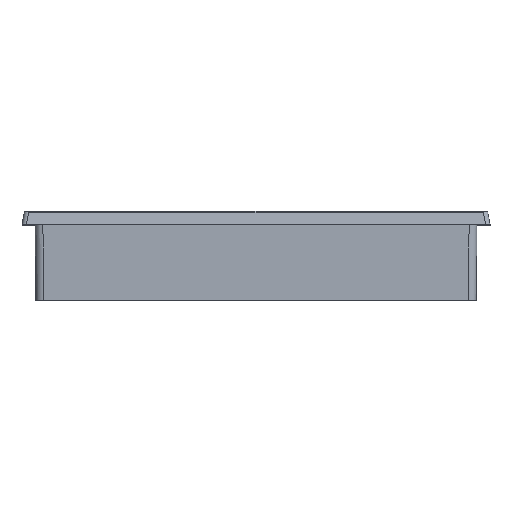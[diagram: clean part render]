
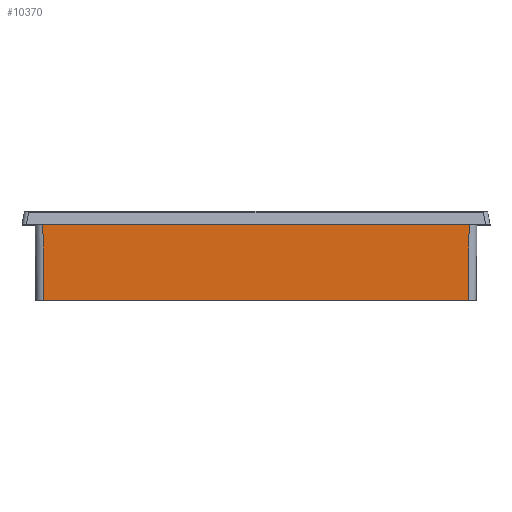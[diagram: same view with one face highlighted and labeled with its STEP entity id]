
A CAD part, top view. The second image highlights one B-rep face of the part: STEP entity #10370.
In plain terms, the highlighted planar face has unit normal (0, -0.009, 1).
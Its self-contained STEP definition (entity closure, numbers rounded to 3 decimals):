
#332 = CARTESIAN_POINT ( 'NONE',  ( -95.182, -34., 68.681 ) ) ;
#1544 = CARTESIAN_POINT ( 'NONE',  ( -95.397, -9.333, 68.897 ) ) ;
#3423 = DIRECTION ( 'NONE',  ( -1., 0., 0. ) ) ;
#3639 = FACE_OUTER_BOUND ( 'NONE', #7389, .T. ) ;
#4467 = B_SPLINE_CURVE_WITH_KNOTS ( 'NONE', 3,
 ( #19981, #14848, #5314, #18262 ),
 .UNSPECIFIED., .F., .F.,
 ( 4, 4 ),
 ( 0., 1. ),
 .UNSPECIFIED. ) ;
#4530 = CARTESIAN_POINT ( 'NONE',  ( -95.182, -34., 68.681 ) ) ;
#4572 = CARTESIAN_POINT ( 'NONE',  ( 31.835, 3., 69.004 ) ) ;
#5008 = ORIENTED_EDGE ( 'NONE', *, *, #19066, .T. ) ;
#5314 = CARTESIAN_POINT ( 'NONE',  ( 95.397, -9.333, 68.897 ) ) ;
#6685 = DIRECTION ( 'NONE',  ( 0., -0.009, 1. ) ) ;
#6821 = ORIENTED_EDGE ( 'NONE', *, *, #17737, .T. ) ;
#7389 = EDGE_LOOP ( 'NONE', ( #5008, #6821, #17707, #21225 ) ) ;
#8008 = CARTESIAN_POINT ( 'NONE',  ( 95.504, 3., 69.004 ) ) ;
#8303 = CARTESIAN_POINT ( 'NONE',  ( -95.182, -34., 68.681 ) ) ;
#9290 = CARTESIAN_POINT ( 'NONE',  ( -95.504, 3., 69.004 ) ) ;
#9471 = CARTESIAN_POINT ( 'NONE',  ( 95.182, -34., 68.681 ) ) ;
#9544 = EDGE_CURVE ( 'NONE', #13063, #17935, #16587, .T. ) ;
#10018 = CARTESIAN_POINT ( 'NONE',  ( -95.504, 3., 69.004 ) ) ;
#10110 = CARTESIAN_POINT ( 'NONE',  ( -105.055, 4.85, 69.021 ) ) ;
#10130 = CARTESIAN_POINT ( 'NONE',  ( -95.289, -21.667, 68.789 ) ) ;
#10249 = AXIS2_PLACEMENT_3D ( 'NONE', #10110, #6685, #3423 ) ;
#10370 = ADVANCED_FACE ( 'NONE', ( #3639 ), #11625, .T. ) ;
#11625 = PLANE ( 'NONE',  #10249 ) ;
#13063 = VERTEX_POINT ( 'NONE', #332 ) ;
#14212 = CARTESIAN_POINT ( 'NONE',  ( -31.835, 3., 69.004 ) ) ;
#14848 = CARTESIAN_POINT ( 'NONE',  ( 95.289, -21.667, 68.789 ) ) ;
#16054 = VERTEX_POINT ( 'NONE', #17234 ) ;
#16587 = B_SPLINE_CURVE_WITH_KNOTS ( 'NONE', 3,
 ( #4530, #17618, #20917, #9471 ),
 .UNSPECIFIED., .F., .F.,
 ( 4, 4 ),
 ( 0., 1. ),
 .UNSPECIFIED. ) ;
#16993 = EDGE_CURVE ( 'NONE', #17935, #17389, #4467, .T. ) ;
#17085 = B_SPLINE_CURVE_WITH_KNOTS ( 'NONE', 3,
 ( #10018, #1544, #10130, #8303 ),
 .UNSPECIFIED., .F., .F.,
 ( 4, 4 ),
 ( 0., 1. ),
 .UNSPECIFIED. ) ;
#17234 = CARTESIAN_POINT ( 'NONE',  ( -95.504, 3., 69.004 ) ) ;
#17389 = VERTEX_POINT ( 'NONE', #18972 ) ;
#17618 = CARTESIAN_POINT ( 'NONE',  ( -31.727, -34., 68.681 ) ) ;
#17707 = ORIENTED_EDGE ( 'NONE', *, *, #9544, .T. ) ;
#17737 = EDGE_CURVE ( 'NONE', #16054, #13063, #17085, .T. ) ;
#17935 = VERTEX_POINT ( 'NONE', #20439 ) ;
#18208 = B_SPLINE_CURVE_WITH_KNOTS ( 'NONE', 3,
 ( #8008, #4572, #14212, #9290 ),
 .UNSPECIFIED., .F., .F.,
 ( 4, 4 ),
 ( 0., 1. ),
 .UNSPECIFIED. ) ;
#18262 = CARTESIAN_POINT ( 'NONE',  ( 95.504, 3., 69.004 ) ) ;
#18972 = CARTESIAN_POINT ( 'NONE',  ( 95.504, 3., 69.004 ) ) ;
#19066 = EDGE_CURVE ( 'NONE', #17389, #16054, #18208, .T. ) ;
#19981 = CARTESIAN_POINT ( 'NONE',  ( 95.182, -34., 68.681 ) ) ;
#20439 = CARTESIAN_POINT ( 'NONE',  ( 95.182, -34., 68.681 ) ) ;
#20917 = CARTESIAN_POINT ( 'NONE',  ( 31.727, -34., 68.681 ) ) ;
#21225 = ORIENTED_EDGE ( 'NONE', *, *, #16993, .T. ) ;
